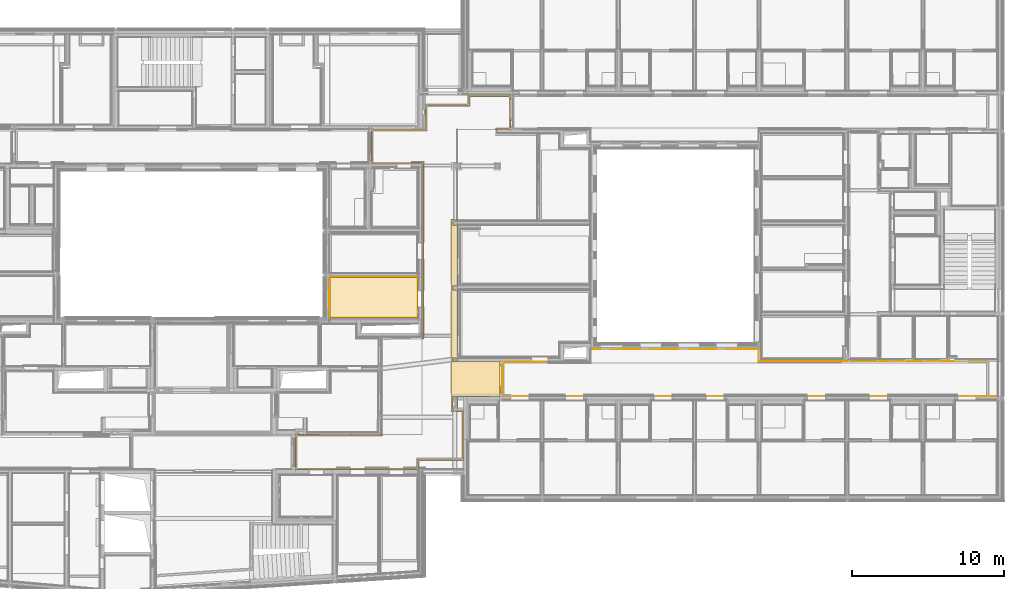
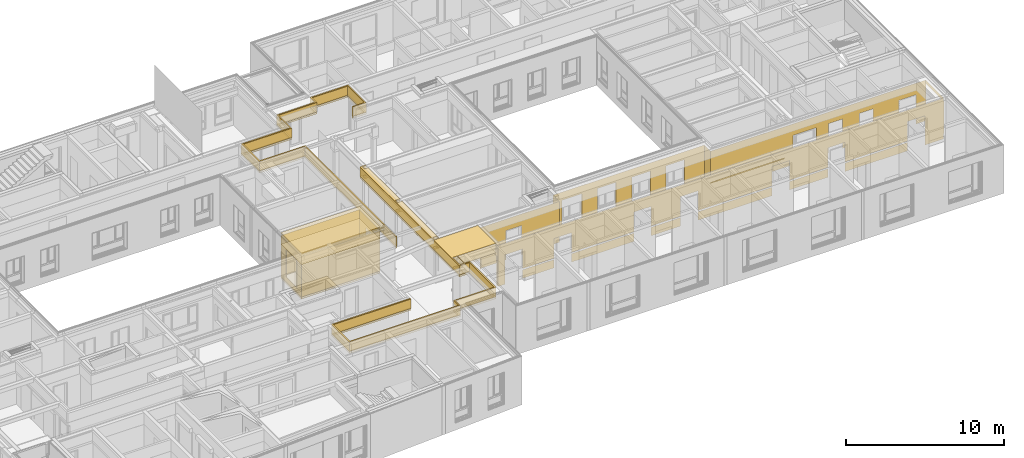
# One storey, part 187 of 222: 12 coverings.
"""IFC4 building model written with IfcOpenShell, lengths in metres."""

import ifcopenshell
import ifcopenshell.guid

model = None  # the IFC model being written
_history = None  # IfcOwnerHistory: only IFC2X3 demands one
_inside = {}  # id of a spatial element -> (the spatial element, [elements in it])
_under = {}  # id of a project, library or spatial element -> (it, [spatial elements below it])
_declared = {}  # id of a project -> (the project, [libraries it declares])
_typed = {}  # id of a type object -> (the type object, [elements of that type])
_made_of = {}  # id of a material, layer set ... -> (it, [elements and type objects made of it])


def new_model(schema):
    """Start an empty IFC model of exactly this schema.

    Asked for "IFC4X3", IfcOpenShell would pick the latest addendum, in which some entities
    have other attributes; the version numbers below select the first issue.
    IFC2X3 requires an IfcOwnerHistory on every rooted entity: one is made here for all.
    """
    global model, _history
    if schema == "IFC4X3":
        model = ifcopenshell.file(schema_version=(4, 3, 0, 0))
    else:
        model = ifcopenshell.file(schema=schema)
    _inside.clear()
    _under.clear()
    _declared.clear()
    _typed.clear()
    _made_of.clear()
    _history = None
    if model.schema == "IFC2X3":
        org = make("IfcOrganization", Name="unknown")
        user = make(
            "IfcPersonAndOrganization",
            ThePerson=make("IfcPerson", FamilyName="unknown"),
            TheOrganization=org,
        )
        app = make(
            "IfcApplication",
            ApplicationDeveloper=org,
            Version="unknown",
            ApplicationFullName="unknown",
            ApplicationIdentifier="unknown",
        )
        _history = make(
            "IfcOwnerHistory",
            OwningUser=user,
            OwningApplication=app,
            ChangeAction="ADDED",
            CreationDate=0,
        )
    return model


def make(cls, **values):
    """One entity of the class cls with the attributes given. An attribute that is None is left unset."""
    return model.create_entity(
        cls, **{name: value for name, value in values.items() if value is not None}
    )


def entity(cls, *values):
    """Any entity or typed value of the class cls, its attributes in the order of the schema. None: left unset."""
    e = model.create_entity(cls)
    for i, value in enumerate(values):
        if value is not None:
            e[i] = value
    return e


def rooted(cls, **values):
    """An entity with a GlobalId (a new one), such as an element, a storey or a relation."""
    return make(cls, GlobalId=ifcopenshell.guid.new(), OwnerHistory=_history, **values)


def si_unit(unit_type, name, prefix=None):
    """IfcSIUnit, for example si_unit("LENGTHUNIT", "METRE", prefix="MILLI")."""
    return make("IfcSIUnit", UnitType=unit_type, Prefix=prefix, Name=name)


def converted_unit(unit_type, name, factor, base, dimensions=None, offset=None):
    """IfcConversionBasedUnit, such as the inch: factor (a typed value) times the base unit."""
    return make(
        "IfcConversionBasedUnit"
        if offset is None
        else "IfcConversionBasedUnitWithOffset",
        ConversionOffset=offset,
        Dimensions=None
        if dimensions is None
        else entity("IfcDimensionalExponents", *dimensions),
        UnitType=unit_type,
        Name=name,
        ConversionFactor=make(
            "IfcMeasureWithUnit", ValueComponent=factor, UnitComponent=base
        ),
    )


def derived_unit(unit_type, elements):
    """IfcDerivedUnit: a product of units, each with its exponent."""
    return make(
        "IfcDerivedUnit",
        Elements=[
            make("IfcDerivedUnitElement", Unit=unit, Exponent=power)
            for unit, power in elements
        ],
        UnitType=unit_type,
    )


def assignment(units):
    """IfcUnitAssignment: the units of a project."""
    return None if units is None else make("IfcUnitAssignment", Units=units)


def point(xyz):
    """IfcCartesianPoint."""
    return None if xyz is None else make("IfcCartesianPoint", Coordinates=xyz)


def direction(xyz):
    """IfcDirection."""
    return None if xyz is None else make("IfcDirection", DirectionRatios=xyz)


def frame(location, z_axis=None, x_axis=None):
    """IfcAxis2Placement3D, a coordinate frame: its origin and axes. An axis left out is left unset."""
    return make(
        "IfcAxis2Placement3D",
        Location=point(location),
        Axis=direction(z_axis),
        RefDirection=direction(x_axis),
    )


def frame_2d(location, x_axis=None):
    """IfcAxis2Placement2D, a coordinate frame in the plane: its origin and x axis."""
    return make(
        "IfcAxis2Placement2D", Location=point(location), RefDirection=direction(x_axis)
    )


def origin():
    """The frame at (0, 0, 0) with its axes left unset."""
    return frame((0.0, 0.0, 0.0))


def place(relative_to, where):
    """IfcLocalPlacement: puts the frame where relative to a parent placement (None: the world)."""
    return make(
        "IfcLocalPlacement", PlacementRelTo=relative_to, RelativePlacement=where
    )


def context(
    kind, dimensions, precision=None, world=None, true_north=None, identifier=None
):
    """IfcGeometricRepresentationContext, for example the 3D "Model" context."""
    return make(
        "IfcGeometricRepresentationContext",
        ContextIdentifier=identifier,
        ContextType=kind,
        CoordinateSpaceDimension=dimensions,
        Precision=precision,
        WorldCoordinateSystem=world,
        TrueNorth=true_north,
    )


def subcontext(parent, identifier, kind, view, scale=None):
    """IfcGeometricRepresentationSubContext, for example "Body" below "Model"."""
    return make(
        "IfcGeometricRepresentationSubContext",
        ContextIdentifier=identifier,
        ContextType=kind,
        ParentContext=parent,
        TargetScale=scale,
        TargetView=view,
    )


def project(units=None, contexts=None):
    """IfcProject with its units and contexts."""
    return rooted(
        "IfcProject",
        Name="project",
        RepresentationContexts=contexts,
        UnitsInContext=assignment(units),
    )


def spatial(cls, under=None, at=None, **own):
    """A site, building, storey or space (cls), placed at a placement, below another one or the project."""
    s = rooted(cls, ObjectPlacement=at, **own)
    if under is not None:
        _under.setdefault(under.id(), (under, []))[1].append(s)
    return s


def polyline(points):
    """IfcPolyline through the points."""
    return make("IfcPolyline", Points=[point(p) for p in points])


def profile(cls, at=None, kind="AREA", **sizes):
    """A parametric profile (cls). Its sizes go by their IFC names, for example OverallWidth=200.0."""
    return make(cls, ProfileType=kind, Position=at, **sizes)


def rectangle(**sizes):
    """IfcRectangleProfileDef."""
    return profile("IfcRectangleProfileDef", **sizes)


def outline(outer, holes=None, kind="AREA"):
    """IfcArbitraryClosedProfileDef: a profile drawn as a closed curve; with holes, ...WithVoids."""
    if holes is None:
        return make("IfcArbitraryClosedProfileDef", ProfileType=kind, OuterCurve=outer)
    return make(
        "IfcArbitraryProfileDefWithVoids",
        ProfileType=kind,
        OuterCurve=outer,
        InnerCurves=holes,
    )


def extrude(swept, where, along, depth):
    """IfcExtrudedAreaSolid: the profile swept, set in the frame where, extruded along a direction by depth."""
    return make(
        "IfcExtrudedAreaSolid",
        SweptArea=swept,
        Position=where,
        ExtrudedDirection=direction(along),
        Depth=depth,
    )


def shape(context_of_items, identifier, shape_type, items):
    """IfcShapeRepresentation: the items that make up one representation, for example the "Body"."""
    return make(
        "IfcShapeRepresentation",
        ContextOfItems=context_of_items,
        RepresentationIdentifier=identifier,
        RepresentationType=shape_type,
        Items=items,
    )


def material(Name=None, Category=None):
    """IfcMaterial."""
    return make("IfcMaterial", Name=Name, Category=Category)


def layer(
    of_material, thickness, ventilated=None, Name=None, Category=None, Priority=None
):
    """IfcMaterialLayer: one layer of a wall or slab, of a material (None: an air gap)."""
    return make(
        "IfcMaterialLayer",
        Material=of_material,
        LayerThickness=thickness,
        IsVentilated=ventilated,
        Name=Name,
        Category=Category,
        Priority=Priority,
    )


def layer_set(layers, Name=None):
    """IfcMaterialLayerSet."""
    return make("IfcMaterialLayerSet", MaterialLayers=layers, LayerSetName=Name)


def layer_usage(for_layer_set, set_direction, sense, offset, extent=None):
    """IfcMaterialLayerSetUsage: how a layer set lies in its element."""
    return make(
        "IfcMaterialLayerSetUsage",
        ForLayerSet=for_layer_set,
        LayerSetDirection=set_direction,
        DirectionSense=sense,
        OffsetFromReferenceLine=offset,
        ReferenceExtent=extent,
    )


def made_of(thing, what):
    """Note that an element or type object is made of a material, layer set ...; save() writes the relation."""
    if what is not None:
        _made_of.setdefault(what.id(), (what, []))[1].append(thing)
    return thing


def element(
    cls,
    number,
    at=None,
    inside=None,
    cuts=None,
    type_object=None,
    material=None,
    context=None,
    identifier="Body",
    shape_type=None,
    held_by="IfcProductDefinitionShape",
    body=None,
    shapes=None,
    **own,
):
    """One element of the class cls, such as IfcWall. Its Tag is "e" and its number.

    at: its placement. inside: the storey or other place that contains it. cuts: it is an
    opening in that element (IfcRelVoidsElement). A single representation is given by context,
    identifier, shape_type and body (its items); several are given by shapes. held_by: the class
    of the entity that holds the representations. save() writes the other relations.
    """
    e = rooted(cls, Tag="e%d" % number, ObjectPlacement=at, **own)
    if body is not None:
        shapes = [shape(context, identifier, shape_type, body)]
    if shapes is not None:
        e.Representation = make(held_by, Representations=shapes)
    if inside is not None:
        _inside.setdefault(inside.id(), (inside, []))[1].append(e)
    if cuts is not None:
        rooted(
            "IfcRelVoidsElement", RelatingBuildingElement=cuts, RelatedOpeningElement=e
        )
    if type_object is not None:
        _typed.setdefault(type_object.id(), (type_object, []))[1].append(e)
    return made_of(e, material)


def aggregate(whole, parts):
    """IfcRelAggregates: a whole, such as a stair, and the parts it consists of."""
    return rooted("IfcRelAggregates", RelatingObject=whole, RelatedObjects=parts)


def save(model, path):
    """Write the relations noted so far, then the file.

    IfcRelAggregates (storeys below a building ...), IfcRelContainedInSpatialStructure (elements
    in a storey), IfcRelDefinesByType, IfcRelAssociatesMaterial and IfcRelDeclares: one each for
    every whole, place, type object, material and project.
    """
    for whole, parts in _under.values():
        aggregate(whole, parts)
    for where, things in _inside.values():
        rooted(
            "IfcRelContainedInSpatialStructure",
            RelatedElements=things,
            RelatingStructure=where,
        )
    for kind, things in _typed.values():
        rooted("IfcRelDefinesByType", RelatedObjects=things, RelatingType=kind)
    for what, things in _made_of.values():
        rooted("IfcRelAssociatesMaterial", RelatedObjects=things, RelatingMaterial=what)
    for by, libraries in _declared.values():
        rooted("IfcRelDeclares", RelatingContext=by, RelatedDefinitions=libraries)
    model.write(path)


model = new_model("IFC4")

# Units and contexts
model_context = context("Model", 3, precision=1e-05, world=origin())
body_context = subcontext(model_context, "Body", "Model", "MODEL_VIEW")
ifc_project = project(units=[si_unit("LENGTHUNIT", "METRE"), si_unit("AREAUNIT", "SQUARE_METRE"), si_unit("VOLUMEUNIT", "CUBIC_METRE"), si_unit("MASSUNIT", "GRAM", prefix="KILO"), converted_unit("PLANEANGLEUNIT", "DEGREE", entity("IfcPlaneAngleMeasure", 0.0174532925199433), si_unit("PLANEANGLEUNIT", "RADIAN"), dimensions=[0, 0, 0, 0, 0, 0, 0]), derived_unit("THERMALTRANSMITTANCEUNIT", [(si_unit("POWERUNIT", "WATT"), 1), (si_unit("THERMODYNAMICTEMPERATUREUNIT", "KELVIN"), -1), (si_unit("LENGTHUNIT", "METRE"), -2)]), derived_unit("VOLUMETRICFLOWRATEUNIT", [(si_unit("LENGTHUNIT", "METRE"), 3), (converted_unit("TIMEUNIT", "hour", entity("IfcTimeMeasure", 3600.0), si_unit("TIMEUNIT", "SECOND"), dimensions=[0, 0, 1, 0, 0, 0, 0]), -1), (si_unit("LENGTHUNIT", "METRE"), -1)])], contexts=[model_context])

# Site, building, storey
site_placement = place(None, origin())
site = spatial("IfcSite", under=ifc_project, at=site_placement, Name="Psychiatrie Neubau Wunstorf", CompositionType="ELEMENT")
building_placement = place(site_placement, origin())
building = spatial("IfcBuilding", under=site, at=building_placement, Name="Neubau H2 Stationsgebäude", CompositionType="ELEMENT")
storey_placement = place(building_placement, frame((0.0, 0.0, 3.6)))
storey = spatial("IfcBuildingStorey", under=building, at=storey_placement, Name="H2 Ebene +1", CompositionType="ELEMENT", Elevation=3.6)

# Coverings
ifc_material_1 = material()
ifc_layer_1 = layer(ifc_material_1, 0.036)
ifc_layer_set_1 = layer_set([ifc_layer_1])
ifc_layer_usage_1 = layer_usage(ifc_layer_set_1, "AXIS3", "POSITIVE", 0.0)
covering_1_placement = place(storey_placement, frame((59.7892498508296, 0.536002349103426, 3.55)))
element("IfcCovering", 1, at=covering_1_placement, inside=storey, material=ifc_layer_usage_1, Name="Gipsfaserplatten 2-lagig (BSK)", PredefinedType="CEILING", context=body_context, shape_type="SweptSolid", body=[
    extrude(outline(polyline([(0.0, 16.2966511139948), (0.0, 14.1149927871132), (0.810750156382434, 14.1150070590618), (5.73574275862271, 14.1149986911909), (5.73568441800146, 14.2150127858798), (0.100005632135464, 14.2150068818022), (0.100063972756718, 16.2964901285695), (7.9997501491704, 16.2964976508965), (7.9997501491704, 15.6964975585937), (10.9462501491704, 15.6964975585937), (10.9462401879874, 12.58), (10.2247401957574, 12.58), (10.2247501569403, 0.0), (10.6407501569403, 0.0), (10.6407501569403, 0.0999999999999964), (10.3647562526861, 0.0999999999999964), (10.3647562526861, 0.371999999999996), (10.6407501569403, 0.371999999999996), (10.6407501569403, 4.3464404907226), (10.3097501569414, 4.3464404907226), (10.3097501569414, 4.6184404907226), (10.3247501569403, 4.6184404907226), (10.3247501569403, 4.61849999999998), (10.6407501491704, 4.6184404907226), (10.6407501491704, 9.32499999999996), (13.450750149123, 9.32499999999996), (13.450750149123, 11.6), (10.6407501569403, 11.6), (10.6407401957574, 12.48), (11.0462401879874, 12.48), (11.0462501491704, 15.7964975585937), (8.0997501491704, 15.7964975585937), (8.0997501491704, 16.3964975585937), (6.39727568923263e-05, 16.3964975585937), (6.39727568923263e-05, 16.2966511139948), (0.0, 16.2966511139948)]), holes=[polyline([(10.3097451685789, 11.6), (10.3097352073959, 12.48), (10.6107401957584, 12.48), (10.6107501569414, 11.6), (10.3097451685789, 11.6)]), polyline([(10.6107501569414, 9.32500018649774), (10.6107501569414, 9.07400037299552), (10.3097451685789, 9.07400037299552), (10.3097451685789, 9.32500018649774), (10.6107501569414, 9.32500018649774)])]), frame((0.0, 16.3964976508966, 0.0), z_axis=(0.0, 0.0, -1.0), x_axis=(1.0, 0.0, 0.0)), (0.0, 0.0, 1.0), 0.036),
    extrude(outline(polyline([(3.324, 16.0124999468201), (3.324, 4.53150197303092), (0.0, 4.53150184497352), (0.0, 2.25350000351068), (3.5275, 2.2535000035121), (3.5275, 0.60349633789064), (6.3175, 0.60349633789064), (6.3175, 0.0), (9.1065, 0.0), (9.1065, 2.28150000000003), (8.12849999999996, 2.28150000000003), (8.12849999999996, 2.1815), (9.0065, 2.18150000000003), (9.0065, 0.100000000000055), (6.4175, 0.1), (6.4175, 0.70349633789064), (3.6275, 0.70349633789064), (3.6275, 2.3535000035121), (0.0999999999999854, 2.35350000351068), (0.0999999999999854, 4.43150184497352), (3.424, 4.43150184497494), (3.424, 16.0124999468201), (3.324, 16.0124999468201)])), frame((5.0042501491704, 24.5814976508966, 0.0), z_axis=(0.0, 0.0, -1.0), x_axis=(1.0, 0.0, 0.0)), (0.0, 0.0, 1.0), 0.036),
])
ifc_material_2 = material(Name="Installationshöhe")
ifc_layer_2 = layer(ifc_material_2, 0.714)
ifc_layer_set_2 = layer_set([ifc_layer_2])
ifc_layer_usage_2 = layer_usage(ifc_layer_set_2, "AXIS3", "POSITIVE", 0.0)
covering_2_placement = place(storey_placement, frame((59.7892498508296, 0.536002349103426, 3.514)))
element("IfcCovering", 2, at=covering_2_placement, inside=storey, material=ifc_layer_usage_2, Name="Gipsfaserplatten 2-lagig (BSK)", PredefinedType="CEILING", context=body_context, shape_type="SweptSolid", body=[
    extrude(outline(polyline([(0.0, 16.2966511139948), (0.0, 14.1149927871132), (0.810750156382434, 14.1150070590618), (5.73574275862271, 14.1149986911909), (5.73568441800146, 14.2150127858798), (0.100005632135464, 14.2150068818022), (0.100063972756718, 16.2964901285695), (7.9997501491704, 16.2964976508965), (7.9997501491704, 15.6964975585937), (10.9462501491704, 15.6964975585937), (10.9462401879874, 12.58), (10.2247401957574, 12.58), (10.2247501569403, 0.0), (10.6407501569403, 0.0), (10.6407501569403, 0.0999999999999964), (10.3647562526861, 0.0999999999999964), (10.3647562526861, 0.371999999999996), (10.6407501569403, 0.371999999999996), (10.6407501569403, 4.3464404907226), (10.3097501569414, 4.3464404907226), (10.3097501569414, 4.6184404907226), (10.3247501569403, 4.6184404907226), (10.3247501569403, 4.61849999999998), (10.6407501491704, 4.6184404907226), (10.6407501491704, 9.32499999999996), (13.450750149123, 9.32499999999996), (13.450750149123, 11.6), (10.6407501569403, 11.6), (10.6407401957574, 12.48), (11.0462401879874, 12.48), (11.0462501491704, 15.7964975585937), (8.0997501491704, 15.7964975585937), (8.0997501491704, 16.3964975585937), (6.39727568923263e-05, 16.3964975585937), (6.39727568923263e-05, 16.2966511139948), (0.0, 16.2966511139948)]), holes=[polyline([(10.3097451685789, 11.6), (10.3097352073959, 12.48), (10.6107401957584, 12.48), (10.6107501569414, 11.6), (10.3097451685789, 11.6)]), polyline([(10.6107501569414, 9.32500018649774), (10.6107501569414, 9.07400037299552), (10.3097451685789, 9.07400037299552), (10.3097451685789, 9.32500018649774), (10.6107501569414, 9.32500018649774)])]), frame((0.0, 16.3964976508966, 0.0), z_axis=(0.0, 0.0, -1.0), x_axis=(1.0, 0.0, 0.0)), (0.0, 0.0, 1.0), 0.714),
    extrude(outline(polyline([(3.324, 16.0124999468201), (3.324, 4.53150197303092), (0.0, 4.53150184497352), (0.0, 2.25350000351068), (3.5275, 2.2535000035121), (3.5275, 0.60349633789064), (6.3175, 0.60349633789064), (6.3175, 0.0), (9.1065, 0.0), (9.1065, 2.28150000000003), (8.12849999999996, 2.28150000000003), (8.12849999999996, 2.1815), (9.0065, 2.18150000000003), (9.0065, 0.100000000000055), (6.4175, 0.1), (6.4175, 0.70349633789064), (3.6275, 0.70349633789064), (3.6275, 2.3535000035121), (0.0999999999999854, 2.35350000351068), (0.0999999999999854, 4.43150184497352), (3.424, 4.43150184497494), (3.424, 16.0124999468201), (3.324, 16.0124999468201)])), frame((5.0042501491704, 24.5814976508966, 0.0), z_axis=(0.0, 0.0, -1.0), x_axis=(1.0, 0.0, 0.0)), (0.0, 0.0, 1.0), 0.714),
])
ifc_material_3 = material(Name="A1")
ifc_layer_3 = layer(ifc_material_3, 0.15)
ifc_layer_set_3 = layer_set([ifc_layer_3])
ifc_layer_usage_3 = layer_usage(ifc_layer_set_3, "AXIS3", "POSITIVE", 0.0)
covering_3_placement = place(storey_placement, frame((59.7892498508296, 0.536002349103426, 2.8)))
element("IfcCovering", 3, at=covering_3_placement, inside=storey, material=ifc_layer_usage_3, Name="Gipsfaserplatten 2-lagig (BSK)", PredefinedType="CEILING", context=body_context, shape_type="SweptSolid", body=[
    extrude(outline(polyline([(0.0, 16.2966511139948), (0.0, 14.1149927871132), (0.810750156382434, 14.1150070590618), (5.73574275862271, 14.1149986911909), (5.73568441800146, 14.2150127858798), (0.100005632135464, 14.2150068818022), (0.100063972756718, 16.2964901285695), (7.9997501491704, 16.2964976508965), (7.9997501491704, 15.6964975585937), (10.9462501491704, 15.6964975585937), (10.9462401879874, 12.58), (10.2247401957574, 12.58), (10.2247501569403, 0.0), (10.6407501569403, 0.0), (10.6407501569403, 0.0999999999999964), (10.3647562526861, 0.0999999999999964), (10.3647562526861, 0.371999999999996), (10.6407501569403, 0.371999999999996), (10.6407501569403, 4.3464404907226), (10.3097501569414, 4.3464404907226), (10.3097501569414, 4.6184404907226), (10.3247501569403, 4.6184404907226), (10.3247501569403, 4.61849999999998), (10.6407501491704, 4.6184404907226), (10.6407501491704, 9.32499999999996), (13.450750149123, 9.32499999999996), (13.450750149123, 11.6), (10.6407501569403, 11.6), (10.6407401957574, 12.48), (11.0462401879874, 12.48), (11.0462501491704, 15.7964975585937), (8.0997501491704, 15.7964975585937), (8.0997501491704, 16.3964975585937), (6.39727568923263e-05, 16.3964975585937), (6.39727568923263e-05, 16.2966511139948), (0.0, 16.2966511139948)]), holes=[polyline([(10.3097451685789, 11.6), (10.3097352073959, 12.48), (10.6107401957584, 12.48), (10.6107501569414, 11.6), (10.3097451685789, 11.6)]), polyline([(10.6107501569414, 9.32500018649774), (10.6107501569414, 9.07400037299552), (10.3097451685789, 9.07400037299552), (10.3097451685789, 9.32500018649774), (10.6107501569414, 9.32500018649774)])]), frame((0.0, 16.3964976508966, 0.0), z_axis=(0.0, 0.0, -1.0), x_axis=(1.0, 0.0, 0.0)), (0.0, 0.0, 1.0), 0.15),
    extrude(outline(polyline([(3.324, 16.0124999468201), (3.324, 4.53150197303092), (0.0, 4.53150184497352), (0.0, 2.25350000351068), (3.5275, 2.2535000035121), (3.5275, 0.60349633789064), (6.3175, 0.60349633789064), (6.3175, 0.0), (9.1065, 0.0), (9.1065, 2.28150000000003), (8.12849999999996, 2.28150000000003), (8.12849999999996, 2.1815), (9.0065, 2.18150000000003), (9.0065, 0.100000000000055), (6.4175, 0.1), (6.4175, 0.70349633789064), (3.6275, 0.70349633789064), (3.6275, 2.3535000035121), (0.0999999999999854, 2.35350000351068), (0.0999999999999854, 4.43150184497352), (3.424, 4.43150184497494), (3.424, 16.0124999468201), (3.324, 16.0124999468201)])), frame((5.0042501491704, 24.5814976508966, 0.0), z_axis=(0.0, 0.0, -1.0), x_axis=(1.0, 0.0, 0.0)), (0.0, 0.0, 1.0), 0.15),
])
ifc_material_4 = material(Name="D1")
ifc_layer_4 = layer(ifc_material_4, 0.001)
ifc_layer_set_4 = layer_set([ifc_layer_4])
ifc_layer_usage_4 = layer_usage(ifc_layer_set_4, "AXIS3", "POSITIVE", 0.0)
covering_4_placement = place(storey_placement, frame((59.7892498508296, 0.536002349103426, 2.65)))
element("IfcCovering", 4, at=covering_4_placement, inside=storey, material=ifc_layer_usage_4, Name="Gipsfaserplatten 2-lagig (BSK)", PredefinedType="CEILING", context=body_context, shape_type="SweptSolid", body=[
    extrude(outline(polyline([(0.0, 16.2966511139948), (0.0, 14.1149927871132), (0.810750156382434, 14.1150070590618), (5.73574275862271, 14.1149986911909), (5.73568441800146, 14.2150127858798), (0.100005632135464, 14.2150068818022), (0.100063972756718, 16.2964901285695), (7.9997501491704, 16.2964976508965), (7.9997501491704, 15.6964975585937), (10.9462501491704, 15.6964975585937), (10.9462401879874, 12.58), (10.2247401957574, 12.58), (10.2247501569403, 0.0), (10.6407501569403, 0.0), (10.6407501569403, 0.0999999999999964), (10.3647562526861, 0.0999999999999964), (10.3647562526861, 0.371999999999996), (10.6407501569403, 0.371999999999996), (10.6407501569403, 4.3464404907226), (10.3097501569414, 4.3464404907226), (10.3097501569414, 4.6184404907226), (10.3247501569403, 4.6184404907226), (10.3247501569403, 4.61849999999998), (10.6407501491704, 4.6184404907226), (10.6407501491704, 9.32499999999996), (13.450750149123, 9.32499999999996), (13.450750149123, 11.6), (10.6407501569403, 11.6), (10.6407401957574, 12.48), (11.0462401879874, 12.48), (11.0462501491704, 15.7964975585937), (8.0997501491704, 15.7964975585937), (8.0997501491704, 16.3964975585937), (6.39727568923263e-05, 16.3964975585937), (6.39727568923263e-05, 16.2966511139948), (0.0, 16.2966511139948)]), holes=[polyline([(10.3097451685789, 11.6), (10.3097352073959, 12.48), (10.6107401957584, 12.48), (10.6107501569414, 11.6), (10.3097451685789, 11.6)]), polyline([(10.6107501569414, 9.32500018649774), (10.6107501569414, 9.07400037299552), (10.3097451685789, 9.07400037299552), (10.3097451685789, 9.32500018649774), (10.6107501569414, 9.32500018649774)])]), frame((0.0, 16.3964976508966, 0.0), z_axis=(0.0, 0.0, -1.0), x_axis=(1.0, 0.0, 0.0)), (0.0, 0.0, 1.0), 0.001),
    extrude(outline(polyline([(3.324, 16.0124999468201), (3.324, 4.53150197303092), (0.0, 4.53150184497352), (0.0, 2.25350000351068), (3.5275, 2.2535000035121), (3.5275, 0.60349633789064), (6.3175, 0.60349633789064), (6.3175, 0.0), (9.1065, 0.0), (9.1065, 2.28150000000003), (8.12849999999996, 2.28150000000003), (8.12849999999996, 2.1815), (9.0065, 2.18150000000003), (9.0065, 0.100000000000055), (6.4175, 0.1), (6.4175, 0.70349633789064), (3.6275, 0.70349633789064), (3.6275, 2.3535000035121), (0.0999999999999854, 2.35350000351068), (0.0999999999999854, 4.43150184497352), (3.424, 4.43150184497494), (3.424, 16.0124999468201), (3.324, 16.0124999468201)])), frame((5.0042501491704, 24.5814976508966, 0.0), z_axis=(0.0, 0.0, -1.0), x_axis=(1.0, 0.0, 0.0)), (0.0, 0.0, 1.0), 0.001),
])

# Space
space_1_placement = place(storey_placement, frame((73.3949999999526, 5.33250000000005, 0.0)))
space_1 = spatial("IfcSpace", under=storey, at=space_1_placement, Name="WUN-H2-E01-073", CompositionType="ELEMENT")

# Coverings
ifc_material_5 = material(Name="97")
ifc_layer_5 = layer(ifc_material_5, 0.001)
ifc_layer_set_5 = layer_set([ifc_layer_5])
ifc_layer_usage_5 = layer_usage(ifc_layer_set_5, "AXIS3", "POSITIVE", 0.0)
covering_5_placement = place(space_1_placement, frame((16.8160000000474, 2.29249999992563, 0.8)))
element("IfcCovering", 5, at=covering_5_placement, inside=space_1, material=ifc_layer_usage_5, Name="Handlauf", PredefinedType="CLADDING", context=body_context, shape_type="SweptSolid", body=[
    extrude(rectangle(XDim=5.379, YDim=0.1, at=frame_2d((2.6895, -0.05), x_axis=(1.0, 0.0))), frame((5.379, 0.0, 0.0), z_axis=(-1.69082487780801e-16, -1.0, 0.0), x_axis=(-1.0, 1.69082487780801e-16, 0.0)), (0.0, 0.0, 1.0), 0.001),
])
ifc_material_6 = material(Name="49")
ifc_layer_6 = layer(ifc_material_6, 0.001)
ifc_layer_set_6 = layer_set([ifc_layer_6])
ifc_layer_usage_6 = layer_usage(ifc_layer_set_6, "AXIS3", "POSITIVE", 0.0)
covering_6_placement = place(space_1_placement, frame((-0.035, 0.0, 0.15)))
element("IfcCovering", 6, at=covering_6_placement, inside=space_1, material=ifc_layer_usage_6, PredefinedType="CLADDING", context=body_context, shape_type="SweptSolid", body=[
    extrude(outline(polyline([(0.0, 3.15), (11.0310003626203, 3.15), (11.0310003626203, 0.0), (0.0, 0.0), (0.0, 3.15)]), holes=[polyline([(7.7813, 2.75), (6.4313, 2.75), (6.4313, 0.635), (7.7813, 0.635), (7.7813, 2.75)]), polyline([(5.2813, 2.75), (3.9313, 2.75), (3.9313, 0.635), (5.2813, 0.635), (5.2813, 2.75)]), polyline([(2.7813, 2.75), (1.4313, 2.75), (1.4313, 0.635), (2.7813, 0.635), (2.7813, 2.75)]), polyline([(10.3811628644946, 2.75), (8.9311628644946, 2.75), (8.9311628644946, 0.635), (10.3811628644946, 0.635), (10.3811628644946, 2.75)])]), frame((16.8510000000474, 3.08149999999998, 3.15), z_axis=(-3.1116162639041e-16, -1.0, 0.0), x_axis=(-1.0, 3.1116162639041e-16, 0.0)), (0.0, 0.0, 1.0), 0.001),
    extrude(rectangle(XDim=0.806499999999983, YDim=3.15, at=frame_2d((0.403249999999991, -1.575), x_axis=(1.0, 0.0))), frame((5.8199996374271, 3.08149999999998, 0.0), z_axis=(1.0, 0.0, 0.0), x_axis=(0.0, -1.0, 0.0)), (0.0, 0.0, 1.0), 0.001),
    extrude(rectangle(XDim=2.75999962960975, YDim=0.65, at=frame_2d((1.37999981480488, -0.325), x_axis=(1.0, 0.0))), frame((5.8199996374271, 2.275, 0.0), z_axis=(0.0, -1.0, 1.3992226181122e-15), x_axis=(-1.0, 0.0, 0.0)), (0.0, 0.0, 1.0), 0.001),
    extrude(outline(polyline([(3.89499962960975, 0.89), (3.89499962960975, 3.15), (5.7849996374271, 3.15), (5.7849996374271, 0.0), (0.0, 0.0), (0.0, 2.4), (2.75999962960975, 2.4), (2.75999962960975, 0.89), (3.89499962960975, 0.89)])), frame((5.8199996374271, 2.275, 3.15), z_axis=(4.51550594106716e-16, -1.0, -2.37206922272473e-16), x_axis=(-1.0, -4.51550594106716e-16, 0.0)), (0.0, 0.0, 1.0), 0.001),
    extrude(outline(polyline([(0.0, 3.15), (0.155000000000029, 3.15), (0.155000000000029, 0.89), (2.12000000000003, 0.89), (2.12000000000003, 3.15), (2.27499999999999, 3.15), (2.27499999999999, 0.0), (0.0, 0.0), (0.0, 3.15)])), frame((0.0350000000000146, 2.27499999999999, 3.15), z_axis=(1.0, 0.0, 3.19510066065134e-15), x_axis=(0.0, -1.0, 0.0)), (0.0, 0.0, 1.0), 0.001),
    extrude(outline(polyline([(0.0, 3.15), (0.515000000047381, 3.15), (0.515000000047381, 0.89), (1.77500000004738, 0.89), (1.77500000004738, 2.4), (4.09500000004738, 2.4), (4.09500000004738, 0.89), (5.35500000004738, 0.89), (5.35500000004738, 2.4), (9.90500000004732, 2.4), (9.90500000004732, 0.89), (11.1650000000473, 0.89), (11.1650000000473, 2.4), (13.3200000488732, 2.4), (13.3200000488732, 0.89), (14.5800000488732, 0.89), (14.5800000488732, 2.4), (19.9800000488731, 2.4), (19.9800000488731, 0.89), (21.2400000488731, 0.89), (21.2400000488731, 2.4), (24.0450000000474, 2.4), (24.0450000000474, 0.89), (25.3050000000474, 0.89), (25.3050000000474, 2.4), (29.8550000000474, 2.4), (29.8550000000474, 0.89), (31.1150000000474, 0.89), (31.1150000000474, 3.15), (32.4940000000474, 3.15), (32.4940000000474, 0.0), (0.0, 0.0), (0.0, 3.15)])), frame((0.035, 0.0, 3.15), z_axis=(3.11171559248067e-18, 1.0, -4.05491635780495e-16), x_axis=(1.0, -3.11171559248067e-18, 0.0)), (0.0, 0.0, 1.0), 0.001),
    extrude(rectangle(XDim=0.65, YDim=2.32, at=frame_2d((1.16, 0.325), x_axis=(0.0, 1.0))), frame((1.81000000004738, 0.0, 0.65), z_axis=(1.960117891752e-16, 1.0, -3.49805654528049e-15), x_axis=(1.0, -1.960117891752e-16, 0.0)), (0.0, 0.0, 1.0), 0.001),
    extrude(rectangle(XDim=0.65, YDim=4.54999999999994, at=frame_2d((2.27499999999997, 0.325), x_axis=(0.0, 1.0))), frame((5.39000000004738, 0.0, 0.65), z_axis=(0.0, 1.0, -1.3992226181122e-15), x_axis=(1.0, 0.0, 0.0)), (0.0, 0.0, 1.0), 0.001),
    extrude(rectangle(XDim=0.65, YDim=5.39999999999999, at=frame_2d((2.69999999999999, 0.325), x_axis=(0.0, 1.0))), frame((14.6150000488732, 0.0, 0.65), z_axis=(1.68424944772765e-16, 1.0, 4.19766785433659e-15), x_axis=(1.0, -1.68424944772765e-16, 0.0)), (0.0, 0.0, 1.0), 0.001),
    extrude(rectangle(XDim=0.65, YDim=2.15500004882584, at=frame_2d((1.07750002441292, 0.325), x_axis=(0.0, 1.0))), frame((11.2000000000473, 0.0, 0.65), z_axis=(-2.11019647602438e-16, 1.0, 2.0988339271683e-15), x_axis=(1.0, 2.11019647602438e-16, 0.0)), (0.0, 0.0, 1.0), 0.001),
    extrude(rectangle(XDim=0.65, YDim=2.80499995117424, at=frame_2d((1.40249997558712, 0.325), x_axis=(0.0, 1.0))), frame((21.2750000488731, 0.0, 0.65), z_axis=(0.0, 1.0, 8.39533570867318e-15), x_axis=(1.0, 0.0, 0.0)), (0.0, 0.0, 1.0), 0.001),
    extrude(rectangle(XDim=0.65, YDim=4.54999999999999, at=frame_2d((-2.27499999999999, -0.325), x_axis=(0.0, -1.0))), frame((29.8900000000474, 0.0, 0.0), z_axis=(0.0, 1.0, 9.79455832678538e-15), x_axis=(1.0, 0.0, 0.0)), (0.0, 0.0, 1.0), 0.001),
    extrude(outline(polyline([(0.0, 3.15), (2.29249999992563, 3.15), (2.29249999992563, 0.0), (0.0, 0.0), (0.0, 3.15)]), holes=[polyline([(2.28624994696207, 2.75), (0.00624994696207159, 2.75), (0.00624994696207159, 0.25), (2.28624994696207, 0.25), (2.28624994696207, 2.75)])]), frame((32.5290000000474, 0.0, 3.15), z_axis=(-1.0, 0.0, 0.0), x_axis=(0.0, 1.0, 0.0)), (0.0, 0.0, 1.0), 0.001),
    extrude(outline(polyline([(0.0, 3.15), (0.689000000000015, 3.15), (0.689000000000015, 0.889999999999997), (1.94900000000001, 0.889999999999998), (1.94900000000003, 3.15), (3.814, 3.15), (3.814, 0.889999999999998), (4.824, 0.889999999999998), (4.824, 3.15), (6.064, 3.15), (6.064, 0.889999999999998), (7.074, 0.889999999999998), (7.074, 3.15), (7.96899998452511, 3.15), (7.96899998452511, 0.889999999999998), (9.65149998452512, 0.889999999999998), (9.65149998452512, 3.15), (15.678, 3.15), (15.678, 2.5), (10.299, 2.5), (10.299, 2.4), (15.678, 2.4), (15.678, 0.0), (0.0, 0.0), (0.0, 3.15)])), frame((32.5290000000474, 2.29249992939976, 3.15), z_axis=(5.42582603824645e-09, -1.0, -2.15833740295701e-08), x_axis=(-1.0, -5.42582603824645e-09, 0.0)), (0.0, 0.0, 1.0), 0.001),
    extrude(rectangle(XDim=0.789000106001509, YDim=3.15, at=frame_2d((0.394500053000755, -1.575), x_axis=(1.0, 0.0))), frame((16.8510000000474, 2.29249989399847, 0.0), z_axis=(-1.0, 0.0, 0.0), x_axis=(0.0, 1.0, 0.0)), (0.0, 0.0, 1.0), 0.001),
    extrude(rectangle(XDim=1.35, YDim=0.0500100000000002, at=frame_2d((-0.675, 0.0250050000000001), x_axis=(-1.0, 0.0))), frame((10.4197000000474, 3.13150999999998, 2.515), z_axis=(0.0, 0.0, -1.0), x_axis=(1.0, 0.0, 0.0)), (0.0, 0.0, 1.0), 0.001),
    extrude(rectangle(XDim=2.115, YDim=0.050010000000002, at=frame_2d((-0.025005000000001, -1.0575), x_axis=(0.0, -1.0))), frame((10.4197000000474, 3.13150999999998, 0.4), z_axis=(-1.0, 0.0, 0.0), x_axis=(0.0, 1.0, 0.0)), (0.0, 0.0, 1.0), 0.001),
    extrude(rectangle(XDim=2.115, YDim=0.0500100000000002, at=frame_2d((-0.0250050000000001, -1.0575), x_axis=(0.0, -1.0))), frame((9.06970000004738, 3.08149999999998, 0.4), z_axis=(1.0, 0.0, 0.0), x_axis=(0.0, -1.0, 0.0)), (0.0, 0.0, 1.0), 0.001),
    extrude(rectangle(XDim=1.35, YDim=0.050010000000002, at=frame_2d((-0.675, 0.025005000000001), x_axis=(-1.0, 0.0))), frame((12.9197000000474, 3.13150999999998, 2.515), z_axis=(0.0, 0.0, -1.0), x_axis=(1.0, 0.0, 0.0)), (0.0, 0.0, 1.0), 0.001),
    extrude(rectangle(XDim=2.115, YDim=0.0500100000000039, at=frame_2d((-0.0250050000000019, -1.0575), x_axis=(0.0, -1.0))), frame((12.9197000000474, 3.13150999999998, 0.4), z_axis=(-1.0, 0.0, 0.0), x_axis=(0.0, 1.0, 0.0)), (0.0, 0.0, 1.0), 0.001),
    extrude(rectangle(XDim=2.115, YDim=0.050010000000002, at=frame_2d((-0.025005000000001, -1.0575), x_axis=(0.0, -1.0))), frame((11.5697000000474, 3.08149999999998, 0.4), z_axis=(1.0, 0.0, 0.0), x_axis=(0.0, -1.0, 0.0)), (0.0, 0.0, 1.0), 0.001),
    extrude(rectangle(XDim=1.35, YDim=0.0500100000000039, at=frame_2d((-0.675, 0.0250050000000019), x_axis=(-1.0, 0.0))), frame((15.4197000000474, 3.13150999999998, 2.515), z_axis=(0.0, 0.0, -1.0), x_axis=(1.0, 0.0, 0.0)), (0.0, 0.0, 1.0), 0.001),
    extrude(rectangle(XDim=2.115, YDim=0.0500100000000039, at=frame_2d((-0.0250050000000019, -1.0575), x_axis=(0.0, -1.0))), frame((15.4197000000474, 3.13150999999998, 0.4), z_axis=(-1.0, 0.0, 0.0), x_axis=(0.0, 1.0, 0.0)), (0.0, 0.0, 1.0), 0.001),
    extrude(rectangle(XDim=2.115, YDim=0.0500100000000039, at=frame_2d((-0.0250050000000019, -1.0575), x_axis=(0.0, -1.0))), frame((14.0697000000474, 3.08149999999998, 0.4), z_axis=(1.0, 1.45490054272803e-13, -3.4401690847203e-15), x_axis=(1.45490054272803e-13, -1.0, 0.0)), (0.0, 0.0, 1.0), 0.001),
    extrude(rectangle(XDim=0.0500100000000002, YDim=1.45, at=frame_2d((-0.725, -0.0250050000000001), x_axis=(0.0, -1.0))), frame((7.91983713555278, 3.08149999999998, 2.515), z_axis=(0.0, 0.0, -1.0), x_axis=(1.0, 0.0, 0.0)), (0.0, 0.0, 1.0), 0.001),
    extrude(rectangle(XDim=0.0500100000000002, YDim=2.115, at=frame_2d((0.0250050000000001, -1.0575), x_axis=(1.0, 0.0))), frame((7.91983713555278, 3.08149999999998, 0.4), z_axis=(-1.0, 0.0, 0.0), x_axis=(0.0, 1.0, 0.0)), (0.0, 0.0, 1.0), 0.001),
    extrude(rectangle(XDim=2.115, YDim=0.0500099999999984, at=frame_2d((-0.0250049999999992, -1.0575), x_axis=(0.0, -1.0))), frame((6.46983713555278, 3.08149999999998, 0.4), z_axis=(1.0, 0.0, 0.0), x_axis=(0.0, -1.0, 0.0)), (0.0, 0.0, 1.0), 0.001),
    extrude(rectangle(XDim=0.035, YDim=2.26, at=frame_2d((0.0175, -1.13), x_axis=(1.0, 0.0))), frame((0.035, 2.11999999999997, 0.0), z_axis=(0.0, -1.0, 0.0), x_axis=(-1.0, 0.0, 0.0)), (0.0, 0.0, 1.0), 0.001),
    extrude(rectangle(XDim=1.965, YDim=0.035, at=frame_2d((-0.0175, -0.9825), x_axis=(0.0, -1.0))), frame((0.035, 0.154999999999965, 2.26), z_axis=(0.0, 0.0, -1.0), x_axis=(1.0, 0.0, 0.0)), (0.0, 0.0, 1.0), 0.001),
    extrude(rectangle(XDim=2.26, YDim=0.0350000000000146, at=frame_2d((0.0175, 1.13), x_axis=(-6.43890054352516e-15, 1.0))), frame((0.0, 0.154999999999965, 2.26), z_axis=(0.0, 1.0, 0.0), x_axis=(1.0, 0.0, 0.0)), (0.0, 0.0, 1.0), 0.001),
    extrude(rectangle(XDim=0.03, YDim=2.5, at=frame_2d((0.015, -1.25), x_axis=(1.0, 0.0))), frame((32.5290000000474, 0.00624994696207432, 0.4), z_axis=(0.0, 1.0, 0.0), x_axis=(1.0, 0.0, 0.0)), (0.0, 0.0, 1.0), 0.001),
    extrude(rectangle(XDim=2.28, YDim=0.03, at=frame_2d((0.015, 1.14), x_axis=(0.0, 1.0))), frame((32.5290000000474, 2.28624994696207, 2.9), z_axis=(0.0, 0.0, -1.0), x_axis=(1.0, 0.0, 0.0)), (0.0, 0.0, 1.0), 0.001),
    extrude(rectangle(XDim=2.5, YDim=0.03, at=frame_2d((-0.015, -1.25), x_axis=(0.0, -1.0))), frame((32.5290000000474, 2.28624994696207, 0.4), z_axis=(0.0, -1.0, 0.0), x_axis=(-1.0, 0.0, 0.0)), (0.0, 0.0, 1.0), 0.001),
    extrude(rectangle(XDim=0.0350000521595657, YDim=2.26, at=frame_2d((0.0175000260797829, -1.13), x_axis=(1.0, 0.0))), frame((24.5600000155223, 2.29249989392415, 0.0), z_axis=(-1.0, 0.0, 0.0), x_axis=(0.0, 1.0, 0.0)), (0.0, 0.0, 1.0), 0.001),
    extrude(outline(polyline([(0.0, 0.0350000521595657), (1.6825, 0.0350000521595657), (1.6825, 0.0), (0.0, 1.13676778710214e-08), (0.0, 0.0350000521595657)])), frame((22.8775000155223, 2.32749994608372, 2.26), z_axis=(0.0, 0.0, -1.0), x_axis=(1.0, 0.0, 0.0)), (0.0, 0.0, 1.0), 0.001),
    extrude(rectangle(XDim=2.26, YDim=0.0350000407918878, at=frame_2d((0.0175000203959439, 1.13), x_axis=(0.0, 1.0))), frame((22.8775000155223, 2.32749993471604, 2.26), z_axis=(1.0, 0.0, 0.0), x_axis=(0.0, -1.0, 0.0)), (0.0, 0.0, 1.0), 0.001),
])

# Space
space_2_placement = place(storey_placement, frame((62.061000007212, 10.5209952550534, 0.0)))
space_2 = spatial("IfcSpace", under=storey, at=space_2_placement, Name="WUN-H2-E01-065", CompositionType="ELEMENT")

# Coverings
ifc_material_7 = material()
ifc_layer_7 = layer(ifc_material_7, 0.036)
ifc_layer_set_7 = layer_set([ifc_layer_7])
ifc_layer_usage_7 = layer_usage(ifc_layer_set_7, "AXIS3", "POSITIVE", 0.0)
covering_7_placement = place(space_2_placement, frame((0.0, 0.0, 3.55)))
element("IfcCovering", 7, at=covering_7_placement, inside=space_2, material=ifc_layer_usage_7, Name="Gipsfaserplatten 2-lagig (BSK)", PredefinedType="CEILING", context=body_context, shape_type="SweptSolid", body=[
    extrude(outline(polyline([(5.73449999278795, 2.61649517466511), (0.0, 2.61650137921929), (2.05382705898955e-05, 0.0), (5.73449999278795, 0.0), (5.73449999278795, 2.61649517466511)])), frame((0.0, 2.61650137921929, 0.0), z_axis=(0.0, 0.0, -1.0), x_axis=(1.0, 0.0, 0.0)), (0.0, 0.0, 1.0), 0.036),
])
ifc_material_8 = material(Name="Installationshöhe")
ifc_layer_8 = layer(ifc_material_8, 0.764)
ifc_layer_set_8 = layer_set([ifc_layer_8])
ifc_layer_usage_8 = layer_usage(ifc_layer_set_8, "AXIS3", "POSITIVE", 0.0)
covering_8_placement = place(space_2_placement, frame((0.0, 0.0, 3.514)))
element("IfcCovering", 8, at=covering_8_placement, inside=space_2, material=ifc_layer_usage_8, Name="Gipsfaserplatten 2-lagig (BSK)", PredefinedType="CEILING", context=body_context, shape_type="SweptSolid", body=[
    extrude(outline(polyline([(5.73449999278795, 2.61649517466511), (0.0, 2.61650137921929), (2.05382705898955e-05, 0.0), (5.73449999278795, 0.0), (5.73449999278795, 2.61649517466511)])), frame((0.0, 2.61650137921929, 0.0), z_axis=(0.0, 0.0, -1.0), x_axis=(1.0, 0.0, 0.0)), (0.0, 0.0, 1.0), 0.764),
])
ifc_material_9 = material(Name="H7a")
ifc_layer_9 = layer(ifc_material_9, 0.1)
ifc_layer_set_9 = layer_set([ifc_layer_9])
ifc_layer_usage_9 = layer_usage(ifc_layer_set_9, "AXIS3", "POSITIVE", 0.0)
covering_9_placement = place(space_2_placement, frame((0.0, 0.0, 2.75)))
element("IfcCovering", 9, at=covering_9_placement, inside=space_2, material=ifc_layer_usage_9, Name="Kühldecke glatt", PredefinedType="CEILING", context=body_context, shape_type="SweptSolid", body=[
    extrude(outline(polyline([(5.73449999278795, 2.61649517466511), (0.0, 2.61650137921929), (2.05382705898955e-05, 0.0), (5.73449999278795, 0.0), (5.73449999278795, 2.61649517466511)])), frame((0.0, 2.61650137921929, 0.0), z_axis=(0.0, 0.0, -1.0), x_axis=(1.0, 0.0, 0.0)), (0.0, 0.0, 1.0), 0.1),
])
ifc_material_10 = material(Name="D1")
ifc_layer_10 = layer(ifc_material_10, 0.001)
ifc_layer_set_10 = layer_set([ifc_layer_10])
ifc_layer_usage_10 = layer_usage(ifc_layer_set_10, "AXIS3", "POSITIVE", 0.0)
covering_10_placement = place(space_2_placement, frame((0.0, 0.0, 2.65)))
element("IfcCovering", 10, at=covering_10_placement, inside=space_2, material=ifc_layer_usage_10, Name="Gipsfaserplatten 2-lagig (BSK)", PredefinedType="CEILING", context=body_context, shape_type="SweptSolid", body=[
    extrude(outline(polyline([(5.73449999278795, 2.61649517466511), (0.0, 2.61650137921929), (2.05382705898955e-05, 0.0), (5.73449999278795, 0.0), (5.73449999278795, 2.61649517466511)])), frame((0.0, 2.61650137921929, 0.0), z_axis=(0.0, 0.0, -1.0), x_axis=(1.0, 0.0, 0.0)), (0.0, 0.0, 1.0), 0.001),
])
ifc_material_11 = material(Name="Ku2")
ifc_layer_11 = layer(ifc_material_11, 0.15)
ifc_layer_set_11 = layer_set([ifc_layer_11])
ifc_layer_usage_11 = layer_usage(ifc_layer_set_11, "AXIS3", "POSITIVE", 0.0)
covering_11_placement = place(space_2_placement, origin())
element("IfcCovering", 11, at=covering_11_placement, inside=space_2, material=ifc_layer_usage_11, Name="PVC Bahnenware Uni", PredefinedType="FLOORING", context=body_context, shape_type="SweptSolid", body=[
    extrude(rectangle(XDim=5.73449999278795, YDim=2.61650137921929, at=frame_2d((-2.86724999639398, -1.30825068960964), x_axis=(-1.0, 0.0))), frame((5.73449999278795, 2.61650137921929, 0.0), z_axis=(0.0, 0.0, 1.0), x_axis=(1.0, 0.0, 0.0)), (0.0, 0.0, 1.0), 0.15),
])
ifc_material_12 = material(Name="49")
ifc_layer_12 = layer(ifc_material_12, 0.001)
ifc_layer_set_12 = layer_set([ifc_layer_12])
ifc_layer_usage_12 = layer_usage(ifc_layer_set_12, "AXIS3", "POSITIVE", 0.0)
covering_12_placement = place(space_2_placement, frame((-0.04, 0.0, 0.15)))
element("IfcCovering", 12, at=covering_12_placement, inside=space_2, material=ifc_layer_usage_12, PredefinedType="CLADDING", context=body_context, shape_type="SweptSolid", body=[
    extrude(rectangle(XDim=5.73449999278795, YDim=3.15, at=frame_2d((2.86724999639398, -1.575), x_axis=(1.0, 0.0))), frame((0.04, 0.0, 0.0), z_axis=(0.0, 1.0, 0.0), x_axis=(1.0, 0.0, 0.0)), (0.0, 0.0, 1.0), 0.001),
    extrude(outline(polyline([(0.0, 3.15), (0.637576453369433, 3.15), (0.637576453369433, 0.89), (1.77257645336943, 0.89), (1.77257645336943, 3.15), (2.61650137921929, 3.15), (2.61650137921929, 0.0), (0.0, 0.0), (0.0, 3.15)])), frame((5.77449999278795, 0.0, 3.15), z_axis=(-1.0, 0.0, 0.0), x_axis=(0.0, 1.0, 0.0)), (0.0, 0.0, 1.0), 0.001),
    extrude(rectangle(XDim=5.73449999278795, YDim=3.15, at=frame_2d((2.86724999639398, -1.575), x_axis=(1.0, 0.0))), frame((5.77449999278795, 2.61650137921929, 0.0), z_axis=(0.0, -1.0, 0.0), x_axis=(-1.0, 0.0, 0.0)), (0.0, 0.0, 1.0), 0.001),
    extrude(outline(polyline([(0.0, 3.15), (2.61650137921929, 3.15), (2.61650137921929, 0.0), (0.0, 0.0), (0.0, 3.15)]), holes=[polyline([(2.0675, 2.75), (0.717500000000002, 2.75), (0.717500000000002, 0.635), (2.0675, 0.635), (2.0675, 2.75)])]), frame((0.04, 2.61650137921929, 3.15), z_axis=(1.0, -1.38671103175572e-15, 0.0), x_axis=(-1.38671103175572e-15, -1.0, 0.0)), (0.0, 0.0, 1.0), 0.001),
    extrude(rectangle(XDim=1.35, YDim=0.0399999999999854, at=frame_2d((0.02, 0.675), x_axis=(1.07791964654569e-14, 1.0))), frame((0.0, 1.89900137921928, 2.515), z_axis=(0.0, 0.0, -1.0), x_axis=(1.0, 0.0, 0.0)), (0.0, 0.0, 1.0), 0.001),
    extrude(rectangle(XDim=2.115, YDim=0.0400000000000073, at=frame_2d((-0.0200000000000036, -1.0575), x_axis=(0.0, -1.0))), frame((0.0, 1.89900137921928, 0.4), z_axis=(0.0, -1.0, 0.0), x_axis=(-1.0, 0.0, 0.0)), (0.0, 0.0, 1.0), 0.001),
    extrude(rectangle(XDim=2.115, YDim=0.0399999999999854, at=frame_2d((-0.0199999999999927, -1.0575), x_axis=(0.0, -1.0))), frame((0.04, 0.549001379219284, 0.4), z_axis=(0.0, 1.0, 0.0), x_axis=(1.0, 0.0, 0.0)), (0.0, 0.0, 1.0), 0.001),
])

save(model, "model.ifc")
